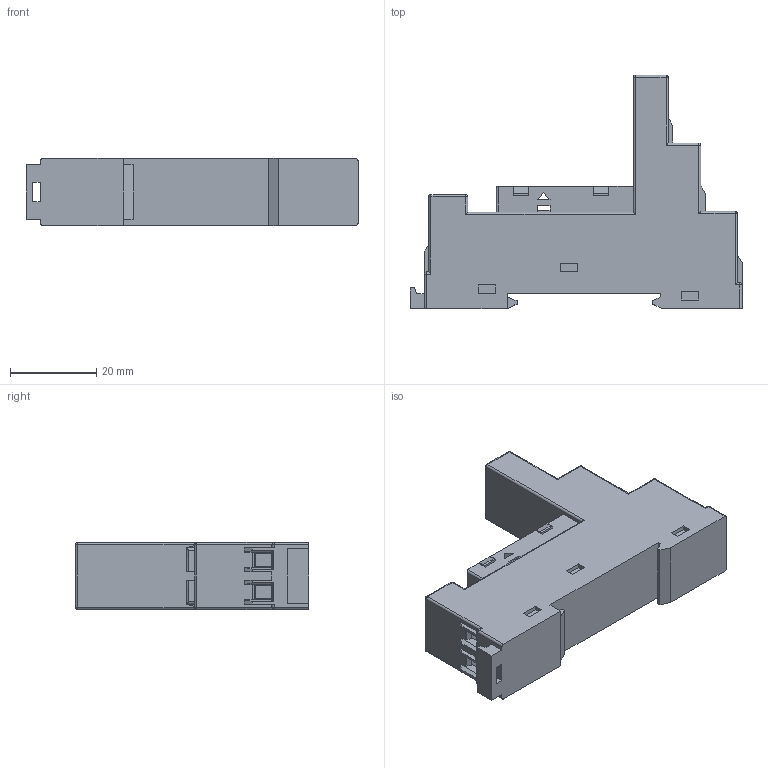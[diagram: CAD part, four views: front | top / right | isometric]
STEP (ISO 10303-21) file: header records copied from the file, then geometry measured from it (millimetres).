
FILE_DESCRIPTION(/* description */ (''),/* implementation_level */ '2;1');
FILE_NAME(/* name */ 'C:\Desktop\B9575.stp',/* time_stamp */ '2017-10-26T11:28:22+02:00',/* author */ ('marco'),/* organization */ (''),/* preprocessor_version */ 'ST-DEVELOPER v16.5',/* originating_system */ 'Autodesk Inventor 2017',/* authorisation */ '');
FILE_SCHEMA (('AUTOMOTIVE_DESIGN { 1 0 10303 214 3 1 1 }'));
Length unit declared in the file: millimetre
Products named in the file (1): B9575
Bounding box: 76.8 x 54 x 15.5 mm (x, y, z)
Volume: 26946.6 mm3; surface area: 14525.7 mm2
Topology: 1 solids, 2 shells, 775 faces, 2109 edges, 1365 vertices
Faces by surface type: plane 682, cylinder 60, torus 16, sphere 16, cone 1
Full cylindrical faces by diameter (mm): 3.2 x1, 4.5 x1, 5 x8
Entity records: 24675 total; most frequent: CARTESIAN_POINT 4484, ORIENTED_EDGE 4148, DIRECTION 3735, EDGE_CURVE 2074, LINE 1901, VECTOR 1901, VERTEX_POINT 1346, AXIS2_PLACEMENT_3D 917
